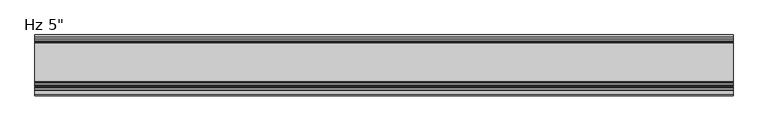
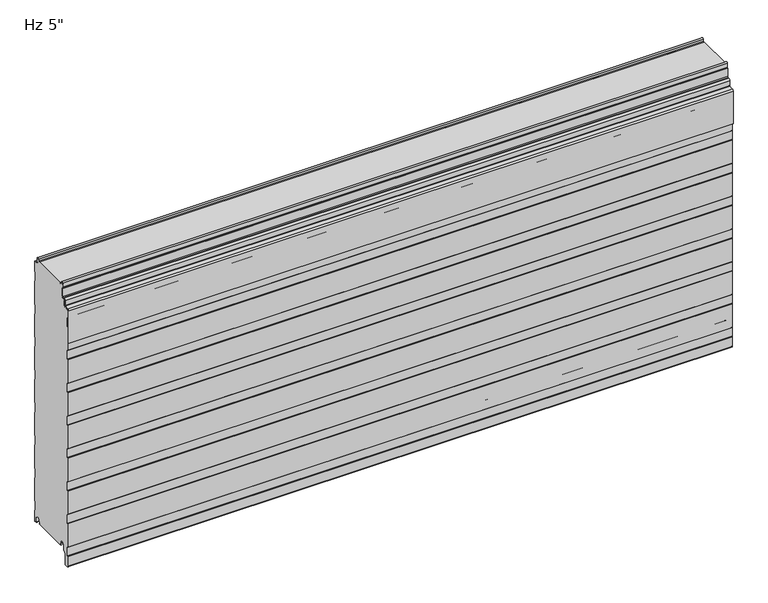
"""IFC4 building model written with IfcOpenShell, lengths in millimetres: plate geometry."""

from ifc_helpers import new_model, si_unit, point, frame, frame_2d, origin, place, context, project, spatial, polyline, circle_curve, trimmed, segment, composite_curve, outline, extrude, source, transform, mapped, element, save
from ifc_brep_helpers import plane_surface, cylinder_surface, revolved_surface, advanced_brep


def plate_0d3032e6(model_context):
    return source(origin(), model_context, "Body", "SolidModel", [
        advanced_brep(
        [(730.0, -105.9008679, 583.4464086), (730.0, -105.9008679, 602.1916086), (730.0, -107.4248679, 602.1916086), (730.0, -107.4248679, 583.4464086), (730.0, -108.9488679, 581.9224086), (730.0, -112.0476679, 581.9224086), (730.0, -115.5020679, 578.4680086), (730.0, -115.5020679, 567.2554512), (730.0, -116.1976552, 566.4963509), (730.0, -125.7416507, 565.3015233), (730.0, -128.524, 562.2651218), (730.0, -128.5360323, 486.6978086), (730.0, -127.0, 486.6978086), (730.0, -127.0, 562.2651218), (730.0, -125.6088254, 563.7833225), (730.0, -116.0648299, 564.9781501), (730.0, -113.9780679, 567.2554512), (730.0, -113.9780679, 578.4680086), (730.0, -112.0476679, 580.3984086), (730.0, -108.9488679, 580.3984086), (-730.0, -105.9008679, 583.4464086), (-730.0, -108.9488679, 580.3984086), (-730.0, -112.0476679, 580.3984086), (-730.0, -113.9780679, 578.4680086), (-730.0, -113.9780679, 567.2554512), (-730.0, -116.0648299, 564.9781501), (-730.0, -125.6088254, 563.7833225), (-730.0, -127.0, 562.2651218), (-730.0, -127.0, 486.6978086), (-730.0, -128.5360323, 486.6978086), (-730.0, -128.5360323, 562.2651218), (-730.0, -125.7416507, 565.3015233), (-730.0, -116.1976552, 566.4963509), (-730.0, -115.5020679, 567.2554512), (-730.0, -115.5020679, 578.4680086), (-730.0, -112.0476679, 581.9224086), (-730.0, -108.9488679, 581.9224086), (-730.0, -107.4248679, 583.4464086), (-730.0, -107.4248679, 602.1916086), (-730.0, -105.9008679, 602.1916086)],
        [
            (0, 1),
            (1, 2),
            (2, 3),
            (3, 4, circle_curve(frame((730.0, -108.9488679, 583.4464086), z_axis=(-1.0, 0.0, 0.0), x_axis=(0.0, 1.0, 0.0)), 1.524)),
            (4, 5),
            (5, 6, circle_curve(frame((730.0, -112.0476679, 578.4680086), z_axis=(1.0, 0.0, 0.0), x_axis=(0.0, 1.0, 0.0)), 3.4544)),
            (6, 7),
            (7, 8, circle_curve(frame((730.0, -116.2640679, 567.2554512), z_axis=(-1.0, 0.0, 0.0), x_axis=(0.0, 1.0, 0.0)), 0.762)),
            (8, 9),
            (9, 10, circle_curve(frame((730.0, -125.476, 562.2651218), z_axis=(1.0, 0.0, 0.0), x_axis=(0.0, 1.0, 0.0)), 3.048)),
            (10, 11),
            (11, 12),
            (12, 13),
            (13, 14, circle_curve(frame((730.0, -125.476, 562.2651218), z_axis=(-1.0, 0.0, 0.0), x_axis=(0.0, 1.0, 0.0)), 1.524)),
            (14, 15),
            (15, 16, circle_curve(frame((730.0, -116.2640679, 567.2554512), z_axis=(1.0, 0.0, 0.0), x_axis=(0.0, 1.0, 0.0)), 2.286)),
            (16, 17),
            (17, 18, circle_curve(frame((730.0, -112.0476679, 578.4680086), z_axis=(-1.0, 0.0, 0.0), x_axis=(0.0, 1.0, 0.0)), 1.9304)),
            (18, 19),
            (19, 0, circle_curve(frame((730.0, -108.9488679, 583.4464086), z_axis=(1.0, 0.0, 0.0), x_axis=(0.0, 1.0, 0.0)), 3.048)),
            (20, 21, circle_curve(frame((-730.0, -108.9488679, 583.4464086), z_axis=(-1.0, 0.0, 0.0), x_axis=(0.0, 1.0, 0.0)), 3.048)),
            (21, 22),
            (22, 23, circle_curve(frame((-730.0, -112.0476679, 578.4680086), z_axis=(1.0, 0.0, 0.0), x_axis=(0.0, 1.0, 0.0)), 1.9304)),
            (23, 24),
            (24, 25, circle_curve(frame((-730.0, -116.2640679, 567.2554512), z_axis=(-1.0, 0.0, 0.0), x_axis=(0.0, 1.0, 0.0)), 2.286)),
            (25, 26),
            (26, 27, circle_curve(frame((-730.0, -125.476, 562.2651218), z_axis=(1.0, 0.0, 0.0), x_axis=(0.0, 1.0, 0.0)), 1.524)),
            (27, 28),
            (28, 29),
            (29, 30),
            (30, 31, circle_curve(frame((-730.0, -125.476, 562.2651218), z_axis=(-1.0, 0.0, 0.0), x_axis=(0.0, 1.0, 0.0)), 3.048)),
            (31, 32),
            (32, 33, circle_curve(frame((-730.0, -116.2640679, 567.2554512), z_axis=(1.0, 0.0, 0.0), x_axis=(0.0, 1.0, 0.0)), 0.762)),
            (33, 34),
            (34, 35, circle_curve(frame((-730.0, -112.0476679, 578.4680086), z_axis=(-1.0, 0.0, 0.0), x_axis=(0.0, 1.0, 0.0)), 3.4544)),
            (35, 36),
            (36, 37, circle_curve(frame((-730.0, -108.9488679, 583.4464086), z_axis=(1.0, 0.0, 0.0), x_axis=(0.0, 1.0, 0.0)), 1.524)),
            (37, 38),
            (38, 39),
            (39, 20),
            (2, 38),
            (37, 3),
            (15, 25),
            (24, 16),
            (7, 33),
            (32, 8),
            (5, 35),
            (34, 6),
            (1, 39),
            (36, 4),
            (9, 31),
            (30, 10),
            (13, 27),
            (26, 14),
            (0, 20),
            (12, 28),
            (29, 11),
            (23, 17),
            (18, 22),
            (21, 19),
        ],
        [
            plane_surface(frame((730.0, -127.0, 602.1916086), z_axis=(1.0, 0.0, 0.0), x_axis=(0.0, 0.0, -1.0))),
            plane_surface(frame((-730.0, -127.0, 602.1916086), z_axis=(-1.0, 0.0, 0.0), x_axis=(0.0, 0.0, -1.0))),
            plane_surface(frame((730.0, -107.4248679, 583.4464086), z_axis=(0.0, -1.0, 0.0), x_axis=(-1.0, 0.0, 0.0))),
            cylinder_surface(frame((730.0, -116.2640679, 567.2554512), z_axis=(1.0, 0.0, 0.0), x_axis=(0.0, 1.0, 0.0)), 2.286),
            revolved_surface(polyline([(-730.0, -115.5020679, 567.2554512), (730.0, -115.5020679, 567.2554512)]), (730.0, -116.2640679, 567.2554512), (-1.0, 0.0, 0.0)),
            cylinder_surface(frame((730.0, -112.0476679, 578.4680086), z_axis=(1.0, 0.0, 0.0), x_axis=(0.0, 1.0, 0.0)), 3.4544),
            plane_surface(frame((730.0, -107.4248679, 602.1916086), z_axis=(0.0, 0.0, 1.0), x_axis=(-1.0, 0.0, 0.0))),
            revolved_surface(polyline([(-730.0, -107.4248679, 583.4464086), (730.0, -107.4248679, 583.4464086)]), (730.0, -108.9488679, 583.4464086), (-1.0, 0.0, 0.0)),
            cylinder_surface(frame((730.0, -125.476, 562.2651218), z_axis=(1.0, 0.0, 0.0), x_axis=(0.0, 1.0, 0.0)), 3.048),
            revolved_surface(polyline([(-730.0, -123.952, 562.2651218), (730.0, -123.952, 562.2651218)]), (730.0, -125.476, 562.2651218), (-1.0, 0.0, 0.0)),
            plane_surface(frame((730.0, -105.9008679, 602.1916086), z_axis=(0.0, 1.0, 0.0), x_axis=(-1.0, 0.0, 0.0))),
            plane_surface(frame((730.0, -116.0648299, 564.9781501), z_axis=(0.0, 0.12422187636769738, -0.9922544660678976), x_axis=(-1.0, 0.0, 0.0))),
            plane_surface(frame((730.0, -127.0, 562.2651218), z_axis=(0.0, 1.0, 0.0), x_axis=(-1.0, 0.0, 0.0))),
            plane_surface(frame((730.0, -125.7416507, 565.3015233), z_axis=(0.0, -0.12422187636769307, 0.9922544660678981), x_axis=(-1.0, 0.0, 0.0))),
            plane_surface(frame((730.0, -112.0476679, 581.9224086), z_axis=(0.0, 0.0, 1.0), x_axis=(-1.0, 0.0, 0.0))),
            plane_surface(frame((730.0, -128.5360323, 486.6978086), z_axis=(0.0, -1.0, 0.0), x_axis=(-1.0, 0.0, 0.0))),
            plane_surface(frame((730.0, -127.0, 486.6978086), z_axis=(0.0, 0.0, -1.0), x_axis=(-1.0, 0.0, 0.0))),
            plane_surface(frame((730.0, -113.9780679, 578.4680086), z_axis=(0.0, 1.0, 0.0), x_axis=(-1.0, 0.0, 0.0))),
            plane_surface(frame((730.0, -108.9488679, 580.3984086), z_axis=(0.0, 0.0, -1.0), x_axis=(-1.0, 0.0, 0.0))),
            plane_surface(frame((730.0, -115.5020679, 567.2554512), z_axis=(0.0, -1.0, 0.0), x_axis=(-1.0, 0.0, 0.0))),
            revolved_surface(polyline([(-730.0, -110.11726789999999, 578.4680086), (730.0, -110.11726789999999, 578.4680086)]), (730.0, -112.0476679, 578.4680086), (-1.0, 0.0, 0.0)),
            cylinder_surface(frame((730.0, -108.9488679, 583.4464086), z_axis=(1.0, 0.0, 0.0), x_axis=(0.0, 1.0, 0.0)), 3.048),
        ],
        [
            (0, [[1, 2, 3, 4, 5, 6, 7, 8, 9, 10, 11, 12, 13, 14, 15, 16, 17, 18, 19, 20]]),
            (1, [[21, 22, 23, 24, 25, 26, 27, 28, 29, 30, 31, 32, 33, 34, 35, 36, 37, 38, 39, 40]]),
            (2, [[41, -38, 42, -3]]),
            (3, [[43, -25, 44, -16]]),
            (4, [[45, -33, 46, -8]]),
            (5, [[47, -35, 48, -6]]),
            (6, [[49, -39, -41, -2]]),
            (7, [[-42, -37, 50, -4]]),
            (8, [[51, -31, 52, -10]]),
            (9, [[53, -27, 54, -14]]),
            (10, [[55, -40, -49, -1]]),
            (11, [[-54, -26, -43, -15]]),
            (12, [[56, -28, -53, -13]]),
            (13, [[-46, -32, -51, -9]]),
            (14, [[-50, -36, -47, -5]]),
            (15, [[-52, -30, 57, -11]]),
            (16, [[-57, -29, -56, -12]]),
            (17, [[-44, -24, 58, -17]]),
            (18, [[59, -22, 60, -19]]),
            (19, [[-48, -34, -45, -7]]),
            (20, [[-58, -23, -59, -18]]),
            (21, [[-60, -21, -55, -20]]),
        ],
    ),
        extrude(outline(composite_curve([segment(trimmed(circle_curve(frame_2d((-98.706538, 2.2313092)), 1.1999976), [point((-98.6760161, 1.0316999))], [point((-97.5065413, 2.2328239))], True, "CARTESIAN"), True, "CONTINUOUS"), segment(polyline([(-97.5065413, 2.2328239), (-97.5065413, 5.9912173), (-98.9050202, 5.9912173), (-98.9050202, 8.6903283)]), True, "CONTINUOUS"), segment(trimmed(circle_curve(frame_2d((-102.2550155, 8.6903283)), 3.3499953), [point((-98.9050202, 8.6903283))], [point((-102.2550155, 12.0403236))], True, "CARTESIAN"), True, "CONTINUOUS"), segment(polyline([(-102.2550155, 12.0403236), (-106.6550067, 12.0403236)]), True, "CONTINUOUS"), segment(trimmed(circle_curve(frame_2d((-106.6550067, 8.6903283)), 3.3499953), [point((-106.6550067, 12.0403236))], [point((-110.005002, 8.6903283))], True, "CARTESIAN"), True, "CONTINUOUS"), segment(polyline([(-110.005002, 8.6903283), (-110.005002, -3.1205608)]), True, "CONTINUOUS"), segment(trimmed(circle_curve(frame_2d((-111.7049966, -3.1205608)), 1.6999946), [point((-110.005002, -3.1205608))], [point((-110.5029189, -4.3226385))], False, "CARTESIAN"), True, "CONTINUOUS"), segment(polyline([(-110.5029189, -4.3226385), (-116.00499, -9.8247096), (-116.00499, -31.9198392)]), True, "CONTINUOUS"), segment(trimmed(circle_curve(frame_2d((-118.7049826, -31.9198392)), 2.6999926), [point((-116.00499, -31.9198392))], [point((-118.223592, -34.5765709))], False, "CARTESIAN"), True, "CONTINUOUS"), segment(polyline([(-118.223592, -34.5765709), (-123.2054129, -35.0125699)]), True, "CONTINUOUS"), segment(trimmed(circle_curve(frame_2d((-123.4294985, -32.4521176)), 2.5702393), [point((-123.2054129, -35.0125699))], [point((-125.9997378, -32.4521176))], False, "CARTESIAN"), True, "CONTINUOUS"), segment(polyline([(-125.9997378, -32.4521176), (-125.9997378, -10.4790962), (-124.7997693, -9.2791277), (-124.7997693, 10.4402849), (-126.0, 11.6405156), (-126.0, 65.7206473), (-124.7997693, 66.920878), (-124.7997693, 86.6402905), (-126.0, 87.8405213), (-126.0, 141.920653), (-124.7997693, 143.1208837), (-124.7997693, 162.8402962), (-126.0, 164.0405269), (-126.0, 218.1206587), (-124.7997693, 219.3208894), (-124.7997693, 239.0403019), (-126.0, 240.2405326), (-126.0, 294.3206644), (-124.7997693, 295.5208951), (-124.7997693, 315.2403076), (-126.0, 316.4405383), (-126.0, 370.5206701), (-124.7997693, 371.7209008), (-124.7997693, 391.4403133), (-126.0, 392.640544), (-126.0, 446.7206758), (-124.7997693, 447.9209065), (-124.7997693, 467.640319), (-126.0, 468.8405497), (-126.0, 522.9206815), (-124.7997693, 524.1209122), (-124.7997693, 543.8403247), (-126.0051411, 545.0456965), (-126.0051411, 561.1156233)]), True, "CONTINUOUS"), segment(trimmed(circle_curve(frame_2d((-124.0461194, 561.1156233)), 1.9590216), [point((-126.0051411, 561.1156233))], [point((-124.2178029, 563.0671075))], False, "CARTESIAN"), True, "CONTINUOUS"), segment(polyline([(-124.2178029, 563.0671075), (-115.7590902, 563.821161)]), True, "CONTINUOUS"), segment(trimmed(circle_curve(frame_2d((-116.0231732, 566.8396267)), 3.0299959), [point((-115.7590902, 563.821161))], [point((-112.9957873, 566.9653654))], True, "CARTESIAN"), True, "CONTINUOUS"), segment(polyline([(-112.9957873, 566.9653654), (-112.9957873, 577.0583308)]), True, "CONTINUOUS"), segment(trimmed(circle_curve(frame_2d((-112.0443786, 577.0583308)), 0.9514087), [point((-112.9957873, 577.0583308))], [point((-112.0443786, 578.0097394))], False, "CARTESIAN"), True, "CONTINUOUS"), segment(polyline([(-112.0443786, 578.0097394), (-108.9007233, 578.0097394)]), True, "CONTINUOUS"), segment(trimmed(circle_curve(frame_2d((-108.9007233, 582.0091924)), 3.9994529), [point((-108.9007233, 578.0097394))], [point((-104.9012703, 582.0091924))], True, "CARTESIAN"), True, "CONTINUOUS"), segment(polyline([(-104.9012703, 582.0091924), (-104.9012703, 603.1895515), (-106.8821181, 604.3334028), (-106.5268578, 613.306811)]), True, "CONTINUOUS"), segment(trimmed(circle_curve(frame_2d((-104.4266291, 613.2236622)), 2.1018739), [point((-106.5268578, 613.306811))], [point((-102.3262802, 613.3037148))], False, "CARTESIAN"), True, "CONTINUOUS"), segment(polyline([(-102.3262802, 613.3037148), (-102.0818653, 609.2977997)]), True, "CONTINUOUS"), segment(trimmed(circle_curve(frame_2d((-100.2434917, 609.4099653)), 1.8417922), [point((-102.0818653, 609.2977997))], [point((-100.2870527, 607.5686884))], True, "CARTESIAN"), True, "CONTINUOUS"), segment(polyline([(-100.2870527, 607.5686884), (-97.5025061, 607.5686884), (-97.5025061, 608.5686884), (-99.0900061, 608.5686884), (-98.0586945, 609.6), (-18.6184525, 609.6), (-17.5871409, 608.5686884), (-19.0015288, 608.5686884), (-19.0015288, 607.5686884), (-16.6743462, 607.5686884)]), True, "CONTINUOUS"), segment(trimmed(circle_curve(frame_2d((-16.6743462, 609.3186869)), 1.7499985), [point((-16.6743462, 607.5686884))], [point((-14.9256429, 609.2513685))], True, "CARTESIAN"), True, "CONTINUOUS"), segment(polyline([(-14.9256429, 609.2513685), (-14.7059822, 613.3921924)]), True, "CONTINUOUS"), segment(trimmed(circle_curve(frame_2d((-12.5552871, 613.2781032)), 2.153719), [point((-14.7059822, 613.3921924))], [point((-10.4046442, 613.3931719))], False, "CARTESIAN"), True, "CONTINUOUS"), segment(polyline([(-10.4046442, 613.3931719), (-9.9974365, 604.9016499)]), True, "CONTINUOUS"), segment(trimmed(circle_curve(frame_2d((-5.9867338, 605.0939817)), 4.0153117), [point((-9.9974365, 604.9016499))], [point((-6.0026007, 601.0787013))], True, "CARTESIAN"), True, "CONTINUOUS"), segment(polyline([(-6.0026007, 601.0787013), (-1.0, 601.0787013), (-1.0, 576.5794011), (-2.2002307, 575.1937682), (-2.2002307, 555.8186019), (-1.0, 554.4329689), (-1.0, 500.3795535), (-2.2002307, 498.9939206), (-2.2002307, 479.6187543), (-1.0, 478.2331213), (-1.0, 424.1797059), (-2.2002307, 422.794073), (-2.2002307, 403.4189067), (-1.0, 402.0332737), (-1.0, 347.9798583), (-2.2002307, 346.5942254), (-2.2002307, 327.2190591), (-1.0, 325.8334261), (-1.0, 271.7800107), (-2.2002307, 270.3943778), (-2.2002307, 251.0192115), (-1.0, 249.6335785), (-1.0, 195.5801631), (-2.2002307, 194.1945302), (-2.2002307, 174.8193639), (-1.0, 173.4337309), (-1.0, 119.3803155), (-2.2002307, 117.9946826), (-2.2002307, 98.6195163), (-1.0, 97.2338833), (-1.0, 43.1804679), (-2.2002307, 41.794835), (-2.2002307, 22.4196687), (-0.9999916, 21.034026), (-0.9999916, -3.4662506), (-5.2315389, -3.4662506)]), True, "CONTINUOUS"), segment(trimmed(circle_curve(frame_2d((-5.2315389, -1.6962564)), 1.7699942), [point((-5.2315389, -3.4662506))], [point((-7.0015331, -1.6962564))], False, "CARTESIAN"), True, "CONTINUOUS"), segment(polyline([(-7.0015331, -1.6962564), (-7.0015331, 8.7237222)]), True, "CONTINUOUS"), segment(trimmed(circle_curve(frame_2d((-10.301529, 8.7237222)), 3.2999959), [point((-7.0015331, 8.7237222))], [point((-10.301529, 12.023718))], True, "CARTESIAN"), True, "CONTINUOUS"), segment(polyline([(-10.301529, 12.023718), (-14.7015202, 12.023718)]), True, "CONTINUOUS"), segment(trimmed(circle_curve(frame_2d((-14.7015202, 8.7237223)), 3.2999957), [point((-14.7015202, 12.023718))], [point((-18.0015159, 8.7237223))], True, "CARTESIAN"), True, "CONTINUOUS"), segment(polyline([(-18.0015159, 8.7237223), (-18.0015159, 6.0315125), (-19.0015105, 6.0315125), (-19.0015105, 2.0313089)]), True, "CONTINUOUS"), segment(trimmed(circle_curve(frame_2d((-18.0015133, 2.0313089)), 0.9999972), [point((-19.0015105, 2.0313089))], [point((-18.0015192, 1.0313117))], True, "CARTESIAN"), True, "CONTINUOUS"), segment(polyline([(-18.0015192, 1.0313117), (-19.0328308, 0.0), (-97.6443162, 0.0), (-98.6760161, 1.0316999)]), True, "CONTINUOUS")], self_intersect=False)), frame((-730.0, 0.0, 0.0), z_axis=(1.0, 0.0, 0.0), x_axis=(0.0, 1.0, 0.0)), (0.0, 0.0, 1.0), 1460.0),
    ])


if __name__ == "__main__":
    model = new_model("IFC4")
    model_context = context("Model", 3, world=origin())
    ifc_project = project(units=[si_unit("LENGTHUNIT", "METRE", prefix="MILLI")], contexts=[model_context])
    site = spatial("IfcSite", under=ifc_project)
    building = spatial("IfcBuilding", under=site)
    placement = place(None, origin())
    plate_shape = plate_0d3032e6(model_context)
    element("IfcPlate", 1, ObjectType="KIP-24-Karrier-KP-R19-CP-Hz-SL3-8in_SL : Hz 5\"", at=placement, inside=building, context=model_context, shape_type="MappedRepresentation", body=[
        mapped(plate_shape, transform((0.0, 0.0, 0.0), x_axis=(1.0, 0.0, 0.0), y_axis=(0.0, 1.0, 0.0), z_axis=(0.0, 0.0, 1.0))),
    ])
    save(model, "model.ifc")
